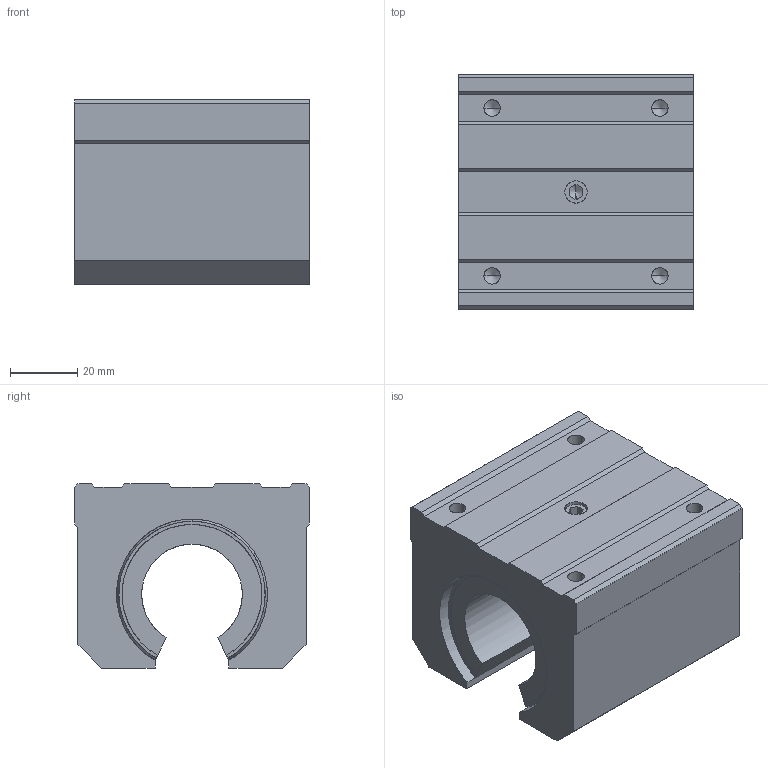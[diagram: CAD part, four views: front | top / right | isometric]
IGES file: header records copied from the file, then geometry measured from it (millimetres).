
Global section: file name: No Iges File Name specified; native system: AutoDesk Inventor R10; preprocessor: AutoDesk Inventor Iges Exporter R10; author: No Author specified; organization: No Organization specified; date: 20101221.091101; units: millimetre
Bounding box: 70 x 70 x 55 mm (x, y, z)
Surface area: 30778.3 mm2 (no closed solid volume)
Topology: 0 solids, 0 shells, 94 faces, 652 edges, 642 vertices
Faces by surface type: bspline 94
